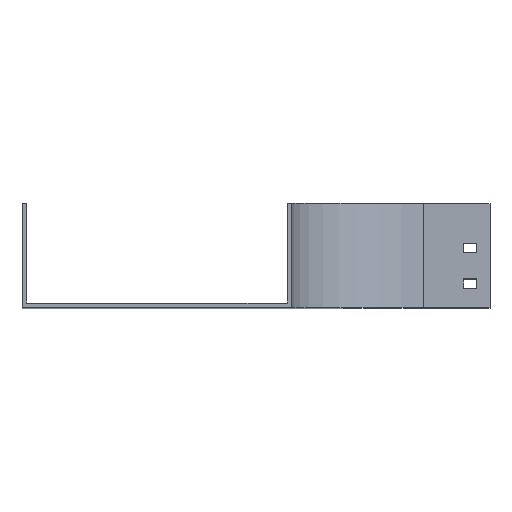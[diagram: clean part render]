
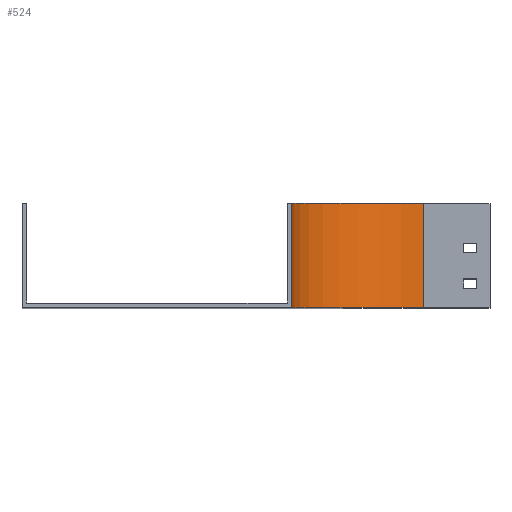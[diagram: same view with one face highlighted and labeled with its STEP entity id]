
A CAD part, top view. The second image highlights one B-rep face of the part: STEP entity #524.
In plain terms, the highlighted cylindrical face has radius 100 mm (diameter 200 mm), a partial arc.
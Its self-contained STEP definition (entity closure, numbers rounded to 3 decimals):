
#7 = EDGE_CURVE ( 'NONE', #1217, #1774, #755, .T. ) ;
#27 = ORIENTED_EDGE ( 'NONE', *, *, #306, .F. ) ;
#32 = DIRECTION ( 'NONE',  ( 0., -1., 0. ) ) ;
#96 = AXIS2_PLACEMENT_3D ( 'NONE', #739, #1820, #1221 ) ;
#177 = VECTOR ( 'NONE', #32, 1000. ) ;
#182 = EDGE_LOOP ( 'NONE', ( #1510, #27, #659, #2115 ) ) ;
#188 = CIRCLE ( 'NONE', #1894, 100. ) ;
#206 = DIRECTION ( 'NONE',  ( 0., 0., -1. ) ) ;
#250 = CIRCLE ( 'NONE', #2074, 100. ) ;
#306 = EDGE_CURVE ( 'NONE', #2545, #843, #1358, .T. ) ;
#346 = FACE_OUTER_BOUND ( 'NONE', #182, .T. ) ;
#524 = ADVANCED_FACE ( 'NONE', ( #346 ), #2448, .F. ) ;
#659 = ORIENTED_EDGE ( 'NONE', *, *, #2140, .F. ) ;
#739 = CARTESIAN_POINT ( 'NONE',  ( 0., 79., 0. ) ) ;
#755 = LINE ( 'NONE', #1007, #1235 ) ;
#843 = VERTEX_POINT ( 'NONE', #1508 ) ;
#919 = DIRECTION ( 'NONE',  ( 0., -1., 0. ) ) ;
#986 = CARTESIAN_POINT ( 'NONE',  ( 0., 79., -100. ) ) ;
#1007 = CARTESIAN_POINT ( 'NONE',  ( -100., 79., 0. ) ) ;
#1217 = VERTEX_POINT ( 'NONE', #2536 ) ;
#1221 = DIRECTION ( 'NONE',  ( 0., 0., -1. ) ) ;
#1235 = VECTOR ( 'NONE', #2500, 1000. ) ;
#1296 = CARTESIAN_POINT ( 'NONE',  ( 0., 0., 0. ) ) ;
#1358 = LINE ( 'NONE', #1751, #177 ) ;
#1508 = CARTESIAN_POINT ( 'NONE',  ( 0., 0., -100. ) ) ;
#1510 = ORIENTED_EDGE ( 'NONE', *, *, #1605, .T. ) ;
#1605 = EDGE_CURVE ( 'NONE', #1774, #843, #188, .T. ) ;
#1751 = CARTESIAN_POINT ( 'NONE',  ( 0., 79., -100. ) ) ;
#1774 = VERTEX_POINT ( 'NONE', #2251 ) ;
#1820 = DIRECTION ( 'NONE',  ( 0., -1., 0. ) ) ;
#1894 = AXIS2_PLACEMENT_3D ( 'NONE', #1296, #2126, #206 ) ;
#2008 = CARTESIAN_POINT ( 'NONE',  ( 0., 79., 0. ) ) ;
#2074 = AXIS2_PLACEMENT_3D ( 'NONE', #2008, #919, #2603 ) ;
#2115 = ORIENTED_EDGE ( 'NONE', *, *, #7, .T. ) ;
#2126 = DIRECTION ( 'NONE',  ( 0., -1., 0. ) ) ;
#2140 = EDGE_CURVE ( 'NONE', #1217, #2545, #250, .T. ) ;
#2251 = CARTESIAN_POINT ( 'NONE',  ( -100., 0., 0. ) ) ;
#2448 = CYLINDRICAL_SURFACE ( 'NONE', #96, 100. ) ;
#2500 = DIRECTION ( 'NONE',  ( 0., -1., 0. ) ) ;
#2536 = CARTESIAN_POINT ( 'NONE',  ( -100., 79., 0. ) ) ;
#2545 = VERTEX_POINT ( 'NONE', #986 ) ;
#2603 = DIRECTION ( 'NONE',  ( 0., 0., -1. ) ) ;
